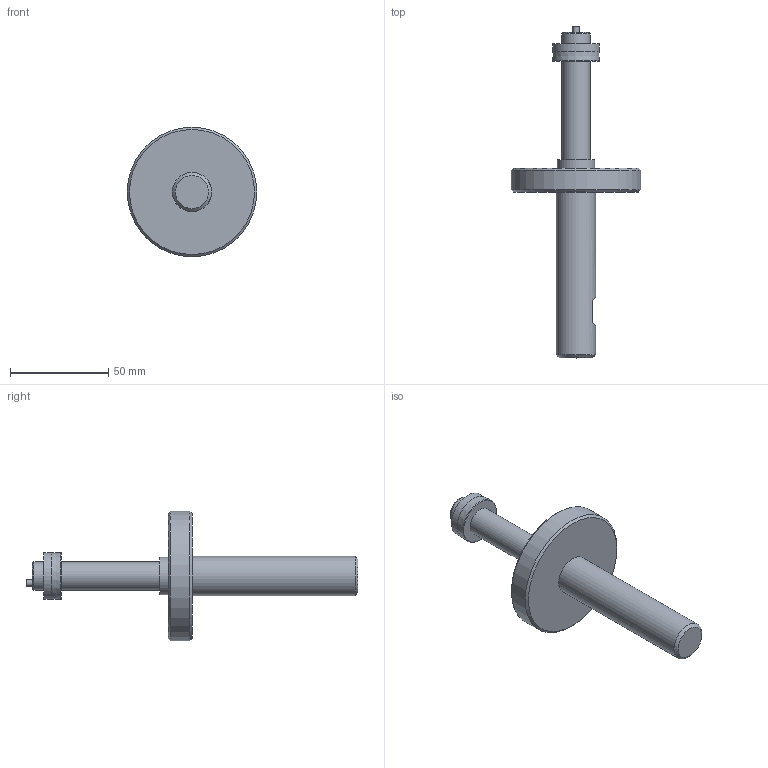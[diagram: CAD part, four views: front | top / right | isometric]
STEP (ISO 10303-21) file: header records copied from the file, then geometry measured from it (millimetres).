
FILE_DESCRIPTION (( 'STEP AP203' ), '1' );
FILE_NAME ('AF56-SIMPLE - AF56-14.50M-24.00M.step', '2025-01-22T13:32:03', ( '' ), ( '' ), 'SwSTEP 2.0', 'SolidWorks 2024', '' );
FILE_SCHEMA (( 'CONFIG_CONTROL_DESIGN' ));
Length unit declared in the file: inch
Products named in the file (1): AF56-SIMPLE - AF56-14.50M-24.00M
Bounding box: 66.04 x 169.29 x 66.04 mm (x, y, z)
Volume: 82082.9 mm3; surface area: 18376.7 mm2
Topology: 1 solids, 1 shells, 24 faces, 40 edges, 25 vertices
Faces by surface type: plane 11, cylinder 7, cone 5, torus 1
Full cylindrical faces by diameter (mm): 3.175 x1, 14.376 x2, 19.05 x1, 20 x1, 23.494 x1, 66.04 x1
Entity records: 569 total; most frequent: DIRECTION 94, CARTESIAN_POINT 81, ORIENTED_EDGE 52, AXIS2_PLACEMENT_3D 45, EDGE_LOOP 44, FACE_OUTER_BOUND 32, EDGE_CURVE 26, ADVANCED_FACE 24
